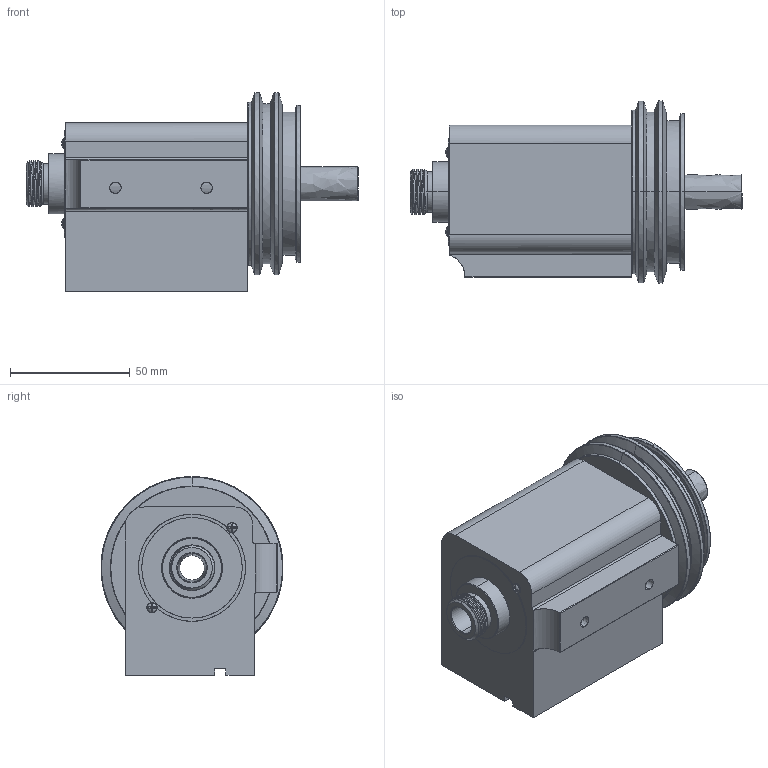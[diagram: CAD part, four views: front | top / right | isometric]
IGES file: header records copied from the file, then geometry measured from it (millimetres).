
Start section: Comment
Global section: file name: 6523.igs; native system:  By Spatial Corp.; preprocessor: XPlus PS/IGES 3.0; author: sherline; organization: Title; date: 20220810.044804; units: inch
Bounding box: 138.68 x 76.02 x 83.05 mm (x, y, z)
Surface area: 81492.1 mm2 (no closed solid volume)
Topology: 0 solids, 0 shells, 469 faces, 2700 edges, 2694 vertices
Faces by surface type: revolution 303, extrusion 105, bspline 61
